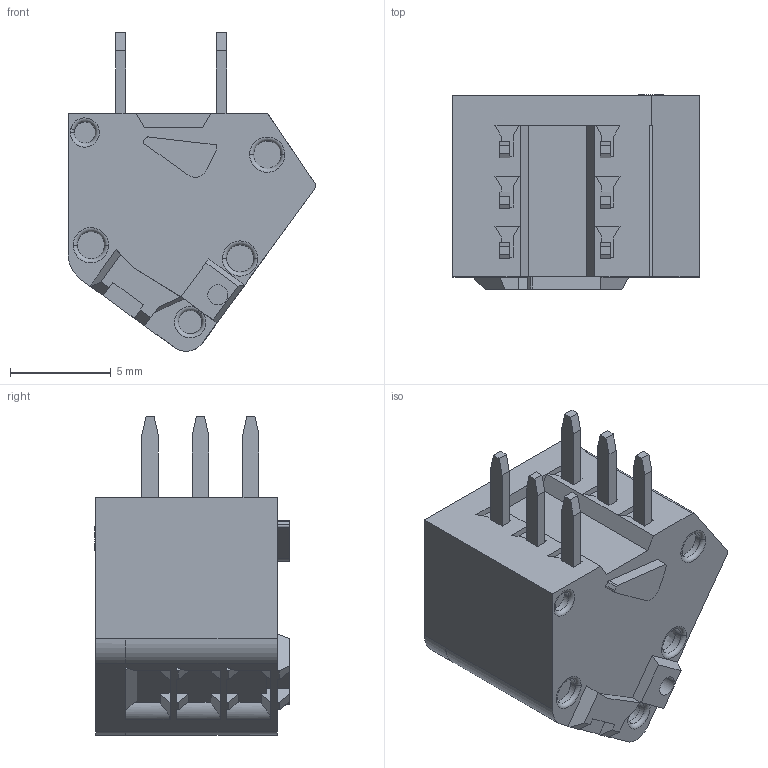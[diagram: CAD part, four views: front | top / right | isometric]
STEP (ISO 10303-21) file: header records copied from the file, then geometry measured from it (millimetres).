
FILE_DESCRIPTION((''),'2;1');
FILE_NAME('HE-03_SW0001','2019-06-03T',('zhenbing.lai'),(''),'CREO PARAMETRIC BY PTC INC, 2016260','CREO PARAMETRIC BY PTC INC, 2016260','');
FILE_SCHEMA(('CONFIG_CONTROL_DESIGN'));
Length unit declared in the file: millimetre
Products named in the file (1): HE-03_SW0001
Bounding box: 12.28 x 9.64 x 15.8 mm (x, y, z)
Volume: 827 mm3; surface area: 980.1 mm2
Topology: 1 solids, 6 shells, 484 faces, 1333 edges, 887 vertices
Faces by surface type: plane 318, cylinder 88, torus 44, bspline 34
Entity records: 16495 total; most frequent: CARTESIAN_POINT 3850, ORIENTED_EDGE 2666, DIRECTION 2634, EDGE_CURVE 1333, VERTEX_POINT 887, AXIS2_PLACEMENT_3D 884, VECTOR 866, LINE 866
